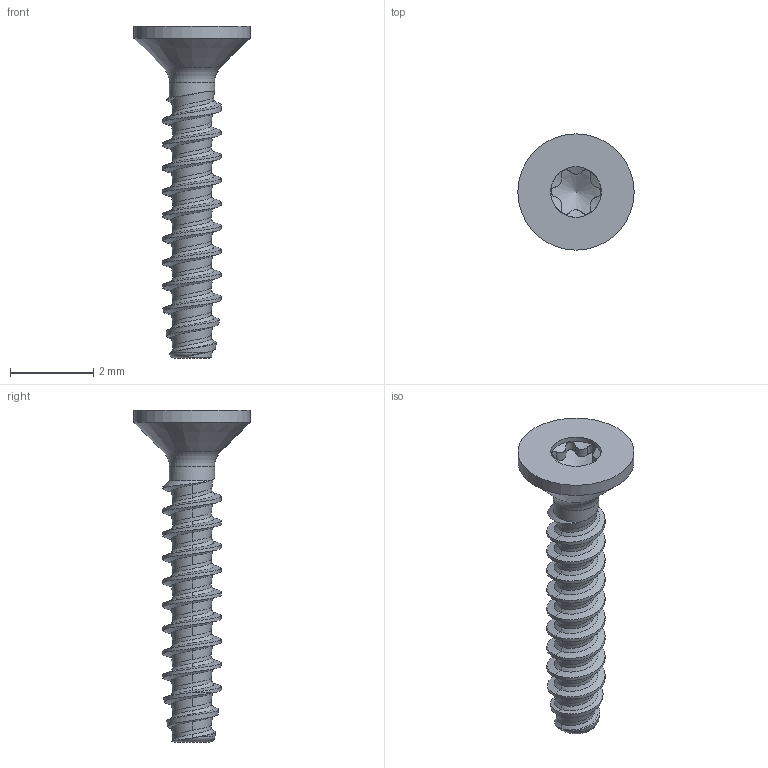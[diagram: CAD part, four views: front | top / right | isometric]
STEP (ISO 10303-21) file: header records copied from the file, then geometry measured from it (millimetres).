
FILE_DESCRIPTION(/* description */ (''),/* implementation_level */ '2;1');
FILE_NAME(/* name */ 'KN6041-STSplus14x8-T3.step',/* time_stamp */ '2017-10-12T08:36:31+02:00',/* author */ (''),/* organization */ (''),/* preprocessor_version */ 'ST-DEVELOPER v16',/* originating_system */ 'SIEMENS PLM Software NX 10.0',/* authorisation */ '');
FILE_SCHEMA (('AUTOMOTIVE_DESIGN { 1 0 10303 214 3 1 1 1 }'));
Length unit declared in the file: millimetre
Products named in the file (1): KN6041-STSplus14x8-T3
Bounding box: 2.8 x 2.8 x 8 mm (x, y, z)
Volume: 10.3 mm3; surface area: 53.1 mm2
Topology: 1 solids, 1 shells, 76 faces, 196 edges, 122 vertices
Faces by surface type: bspline 49, cylinder 17, cone 5, plane 3, torus 2
Full cylindrical faces by diameter (mm): 1.09 x1, 1.22 x1, 2.8 x1
Entity records: 5622 total; most frequent: CARTESIAN_POINT 4198, ORIENTED_EDGE 362, EDGE_CURVE 181, DIRECTION 137, VERTEX_POINT 116, B_SPLINE_CURVE_WITH_KNOTS 112, EDGE_LOOP 84, ADVANCED_FACE 76
